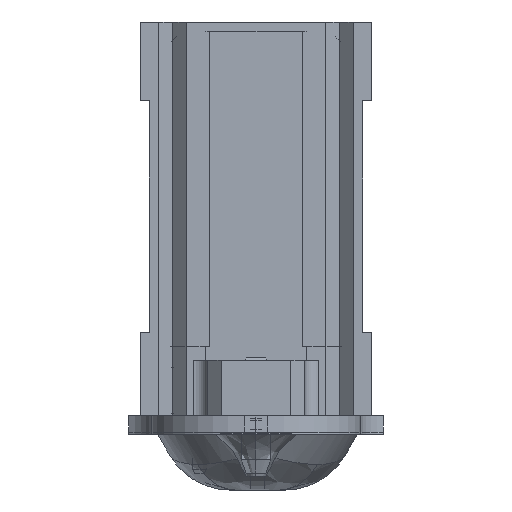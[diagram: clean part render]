
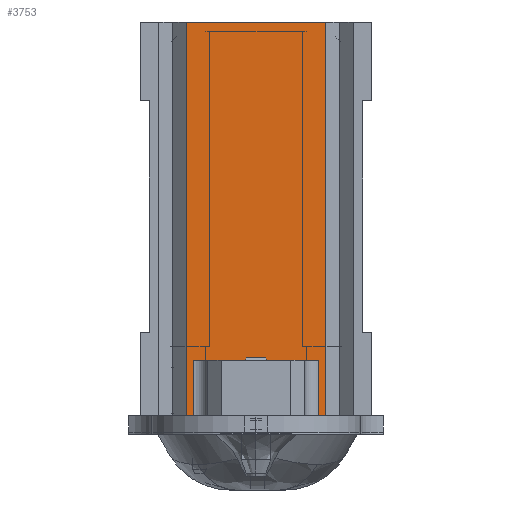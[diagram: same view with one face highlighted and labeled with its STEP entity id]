
A CAD part, left-side view. The second image highlights one B-rep face of the part: STEP entity #3753.
In plain terms, the highlighted planar face has unit normal (-1, 0, 0).
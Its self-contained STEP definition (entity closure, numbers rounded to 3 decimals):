
#284 = CARTESIAN_POINT ( 'NONE',  ( 245.5, 254.3, 1.55 ) ) ;
#1342 = VECTOR ( 'NONE', #95670, 1000. ) ;
#1698 = VERTEX_POINT ( 'NONE', #38229 ) ;
#1855 = VECTOR ( 'NONE', #12509, 1000. ) ;
#2218 = FACE_OUTER_BOUND ( 'NONE', #36132, .T. ) ;
#2298 = CARTESIAN_POINT ( 'NONE',  ( 245.5, 250.45, 0.35 ) ) ;
#2626 = VERTEX_POINT ( 'NONE', #32227 ) ;
#2765 = VERTEX_POINT ( 'NONE', #284 ) ;
#3106 = CARTESIAN_POINT ( 'NONE',  ( 245.5, 254.3, 1.55 ) ) ;
#3753 = ADVANCED_FACE ( 'NONE', ( #2218 ), #96461, .F. ) ;
#4193 = LINE ( 'NONE', #72285, #1855 ) ;
#5133 = CARTESIAN_POINT ( 'NONE',  ( 245.5, 254.45, 0.35 ) ) ;
#9005 = LINE ( 'NONE', #71676, #48839 ) ;
#10607 = DIRECTION ( 'NONE',  ( 0., -1., 0. ) ) ;
#12509 = DIRECTION ( 'NONE',  ( 0., 1., 0. ) ) ;
#16753 = EDGE_CURVE ( 'NONE', #17382, #93840, #21148, .T. ) ;
#17268 = DIRECTION ( 'NONE',  ( 0., 1., 0. ) ) ;
#17368 = LINE ( 'NONE', #3106, #54945 ) ;
#17382 = VERTEX_POINT ( 'NONE', #90370 ) ;
#18082 = CARTESIAN_POINT ( 'NONE',  ( 245.5, 251.45, 0.35 ) ) ;
#18771 = VECTOR ( 'NONE', #17268, 1000. ) ;
#20385 = EDGE_CURVE ( 'NONE', #66250, #2626, #21067, .T. ) ;
#21067 = LINE ( 'NONE', #81529, #38764 ) ;
#21140 = LINE ( 'NONE', #2298, #18771 ) ;
#21148 = LINE ( 'NONE', #80597, #1342 ) ;
#24494 = ORIENTED_EDGE ( 'NONE', *, *, #59303, .F. ) ;
#25627 = DIRECTION ( 'NONE',  ( 0., 0., 1. ) ) ;
#26633 = DIRECTION ( 'NONE',  ( 0., 0., -1. ) ) ;
#29062 = CARTESIAN_POINT ( 'NONE',  ( 245.5, 250.45, 0.35 ) ) ;
#29276 = ORIENTED_EDGE ( 'NONE', *, *, #67671, .F. ) ;
#32227 = CARTESIAN_POINT ( 'NONE',  ( 245.5, 254.45, 8.85 ) ) ;
#33148 = EDGE_CURVE ( 'NONE', #1698, #50892, #4193, .T. ) ;
#36132 = EDGE_LOOP ( 'NONE', ( #72760, #24494, #43278, #93126, #38649, #85901, #29276, #61431 ) ) ;
#36644 = DIRECTION ( 'NONE',  ( 0., -1., 0. ) ) ;
#37648 = CARTESIAN_POINT ( 'NONE',  ( 245.5, 251.45, 8.85 ) ) ;
#38229 = CARTESIAN_POINT ( 'NONE',  ( 245.5, 254.3, 0.35 ) ) ;
#38649 = ORIENTED_EDGE ( 'NONE', *, *, #48466, .T. ) ;
#38764 = VECTOR ( 'NONE', #43707, 1000. ) ;
#39027 = DIRECTION ( 'NONE',  ( 0., 0., -1. ) ) ;
#43278 = ORIENTED_EDGE ( 'NONE', *, *, #83680, .T. ) ;
#43707 = DIRECTION ( 'NONE',  ( 0., 1., 0. ) ) ;
#44996 = VECTOR ( 'NONE', #39027, 1000. ) ;
#46595 = CARTESIAN_POINT ( 'NONE',  ( 245.5, 254.3, 1.55 ) ) ;
#46876 = VECTOR ( 'NONE', #25627, 1000. ) ;
#47342 = LINE ( 'NONE', #46595, #44996 ) ;
#48466 = EDGE_CURVE ( 'NONE', #2626, #50892, #9005, .T. ) ;
#48839 = VECTOR ( 'NONE', #26633, 1000. ) ;
#50892 = VERTEX_POINT ( 'NONE', #5133 ) ;
#54945 = VECTOR ( 'NONE', #10607, 1000. ) ;
#59303 = EDGE_CURVE ( 'NONE', #82522, #93840, #21140, .T. ) ;
#61431 = ORIENTED_EDGE ( 'NONE', *, *, #86932, .T. ) ;
#66250 = VERTEX_POINT ( 'NONE', #37648 ) ;
#67671 = EDGE_CURVE ( 'NONE', #2765, #1698, #47342, .T. ) ;
#68367 = CARTESIAN_POINT ( 'NONE',  ( 245.5, 251.6, 0.35 ) ) ;
#71676 = CARTESIAN_POINT ( 'NONE',  ( 245.5, 254.45, 0.35 ) ) ;
#71934 = AXIS2_PLACEMENT_3D ( 'NONE', #29062, #81712, #36644 ) ;
#72285 = CARTESIAN_POINT ( 'NONE',  ( 245.5, 250.45, 0.35 ) ) ;
#72760 = ORIENTED_EDGE ( 'NONE', *, *, #16753, .T. ) ;
#80597 = CARTESIAN_POINT ( 'NONE',  ( 245.5, 251.6, 1.55 ) ) ;
#81529 = CARTESIAN_POINT ( 'NONE',  ( 245.5, 250.45, 8.85 ) ) ;
#81712 = DIRECTION ( 'NONE',  ( 1., 0., 0. ) ) ;
#82522 = VERTEX_POINT ( 'NONE', #91338 ) ;
#83680 = EDGE_CURVE ( 'NONE', #82522, #66250, #86815, .T. ) ;
#85901 = ORIENTED_EDGE ( 'NONE', *, *, #33148, .F. ) ;
#86815 = LINE ( 'NONE', #18082, #46876 ) ;
#86932 = EDGE_CURVE ( 'NONE', #2765, #17382, #17368, .T. ) ;
#90370 = CARTESIAN_POINT ( 'NONE',  ( 245.5, 251.6, 1.55 ) ) ;
#91338 = CARTESIAN_POINT ( 'NONE',  ( 245.5, 251.45, 0.35 ) ) ;
#93126 = ORIENTED_EDGE ( 'NONE', *, *, #20385, .T. ) ;
#93840 = VERTEX_POINT ( 'NONE', #68367 ) ;
#95670 = DIRECTION ( 'NONE',  ( 0., 0., -1. ) ) ;
#96461 = PLANE ( 'NONE',  #71934 ) ;
